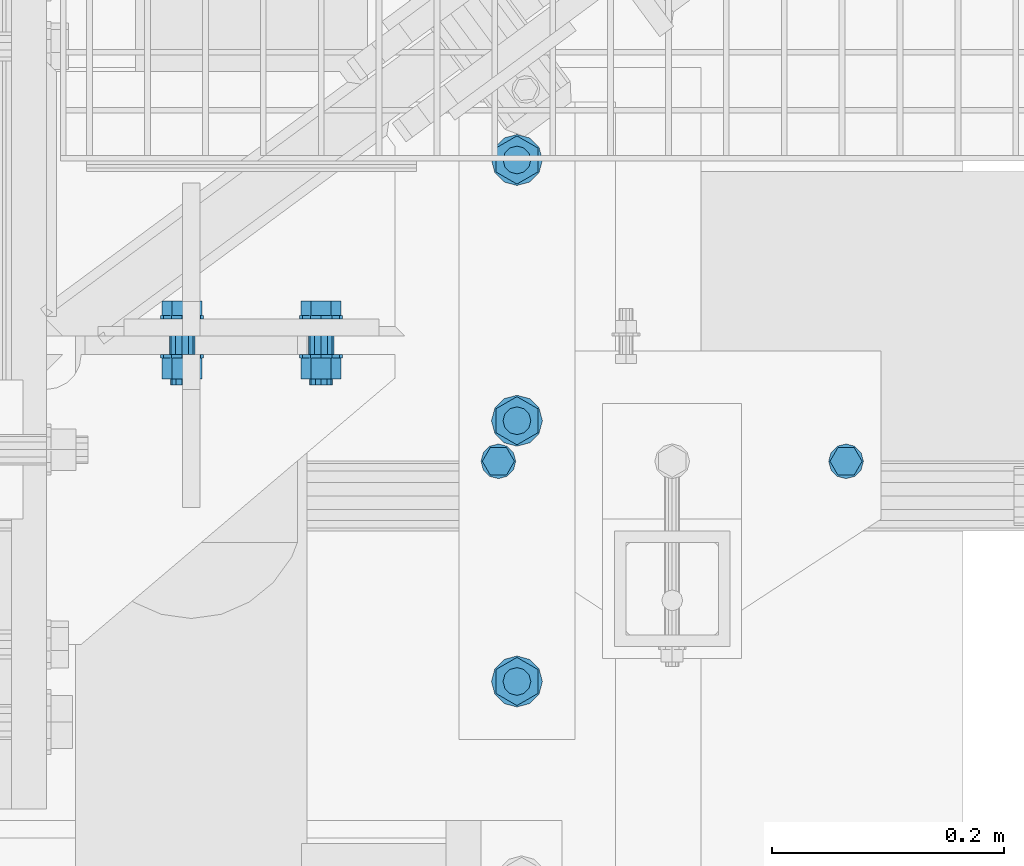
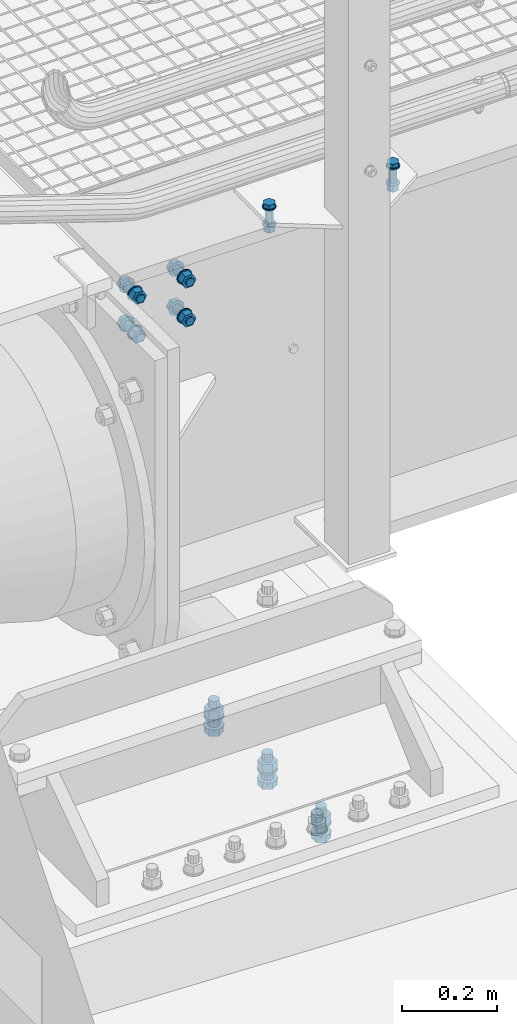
# One storey, part 6 of 1530: 3 mechanical fasteners.
"""IFC2X3 building model written with IfcOpenShell, lengths in millimetres."""

from ifc_helpers import new_model, si_unit, frame, origin_with_axes, place, context, subcontext, project, spatial, faceted_brep, source, transform, mapped, material, type_object, element, save


model = new_model("IFC2X3")

# Units and contexts
model_context = context("Model", 3, precision=1e-05, world=origin_with_axes())
body_context = subcontext(model_context, "Body", "Model", "MODEL_VIEW")
ifc_project = project(units=[si_unit("LENGTHUNIT", "METRE", prefix="MILLI"), si_unit("AREAUNIT", "SQUARE_METRE"), si_unit("VOLUMEUNIT", "CUBIC_METRE"), si_unit("MASSUNIT", "GRAM", prefix="KILO"), si_unit("TIMEUNIT", "SECOND"), si_unit("PLANEANGLEUNIT", "RADIAN"), si_unit("SOLIDANGLEUNIT", "STERADIAN"), si_unit("THERMODYNAMICTEMPERATUREUNIT", "DEGREE_CELSIUS"), si_unit("LUMINOUSINTENSITYUNIT", "LUMEN")], contexts=[model_context])

# Site, building, storey
site_placement = place(None, origin_with_axes())
site = spatial("IfcSite", under=ifc_project, at=site_placement, Name="Brattvåg", CompositionType="ELEMENT")
building_placement = place(site_placement, origin_with_axes())
building = spatial("IfcBuilding", under=site, at=building_placement, Name="Undefined", CompositionType="ELEMENT")
storey_placement = place(building_placement, origin_with_axes())
storey = spatial("IfcBuildingStorey", under=building, at=storey_placement, Name="Undefined", CompositionType="ELEMENT", Elevation=0.0)

# Mechanical fasteners
ifc_material = material(Name="8")
mechanical_fastener_type = type_object("IfcMechanicalFastenerType", Name="Bolt assembly")
shared_shape_1 = source(origin_with_axes(), body_context, "Body", "Brep", [
    faceted_brep([(20.7846096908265, -39.0003051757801, 0.0), (10.3923048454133, -39.0003051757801, 18.0), (-10.3923048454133, -39.0003051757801, 18.0), (-20.7846096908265, -39.0003051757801, 2.54538057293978e-15), (-10.3923048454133, -39.0003051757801, -18.0), (10.3923048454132, -39.0003051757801, -18.0), (10.3923048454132, -24.0003051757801, -18.0), (-10.3923048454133, -24.0003051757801, -18.0), (-20.7846096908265, -24.0003051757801, 2.54538057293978e-15), (-10.3923048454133, -24.0003051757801, 18.0), (10.3923048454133, -24.0003051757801, 18.0), (20.7846096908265, -24.0003051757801, 0.0), (12.0, -24.0003051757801, 0.0), (10.3923048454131, -24.0003051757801, 6.00000000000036), (5.99999999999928, -24.0003051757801, 10.3923048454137), (-1.24360317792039e-12, -24.0003051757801, 12.0), (-6.00000000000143, -24.0003051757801, 10.3923048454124), (-10.3923048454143, -24.0003051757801, 5.99999999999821), (-12.0, -24.0003051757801, -2.48720635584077e-12), (-10.3923048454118, -24.0003051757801, -6.00000000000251), (-5.99999999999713, -24.0003051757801, -10.3923048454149), (3.71748685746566e-12, -24.0003051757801, -12.0), (6.00000000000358, -24.0003051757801, -10.3923048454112), (10.3923048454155, -24.0003051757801, -5.99999999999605), (10.3923048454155, 45.9996948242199, -5.99999999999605), (6.00000000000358, 45.9996948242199, -10.3923048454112), (3.71748685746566e-12, 45.9996948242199, -12.0), (-5.99999999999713, 45.9996948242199, -10.3923048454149), (-10.3923048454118, 45.9996948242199, -6.00000000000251), (-12.0, 45.9996948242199, -2.48720635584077e-12), (-10.3923048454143, 45.9996948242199, 5.99999999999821), (-6.00000000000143, 45.9996948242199, 10.3923048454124), (-1.24360317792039e-12, 45.9996948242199, 12.0), (5.99999999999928, 45.9996948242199, 10.3923048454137), (10.3923048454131, 45.9996948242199, 6.00000000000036), (12.0, 45.9996948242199, 0.0), (22.0, -24.0003051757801, 0.0), (19.0525588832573, -24.0003051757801, 11.0000000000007), (10.9999999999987, -24.0003051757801, 19.0525588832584), (-2.27993915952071e-12, -24.0003051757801, 22.0), (-11.0000000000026, -24.0003051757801, 19.0525588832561), (-19.0525588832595, -24.0003051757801, 10.9999999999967), (-22.0, -24.0003051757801, -4.55987831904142e-12), (-19.052558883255, -24.0003051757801, -11.0000000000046), (-10.9999999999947, -24.0003051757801, -19.0525588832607), (6.81539257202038e-12, -24.0003051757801, -22.0), (11.0000000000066, -24.0003051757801, -19.0525588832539), (19.0525588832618, -24.0003051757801, -10.9999999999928), (19.0525588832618, -20.0003051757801, -10.9999999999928), (11.0000000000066, -20.0003051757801, -19.0525588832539), (6.81539257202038e-12, -20.0003051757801, -22.0), (-10.9999999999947, -20.0003051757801, -19.0525588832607), (-19.052558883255, -20.0003051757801, -11.0000000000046), (-22.0, -20.0003051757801, -4.55987831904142e-12), (-19.0525588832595, -20.0003051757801, 10.9999999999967), (-11.0000000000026, -20.0003051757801, 19.0525588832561), (-2.27993915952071e-12, -20.0003051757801, 22.0), (10.9999999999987, -20.0003051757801, 19.0525588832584), (19.0525588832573, -20.0003051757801, 11.0000000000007), (22.0, -20.0003051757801, 0.0), (22.0, -0.000305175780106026, 0.0), (19.0525588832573, -0.000305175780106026, 11.0000000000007), (10.9999999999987, -0.000305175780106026, 19.0525588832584), (-2.27993915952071e-12, -0.000305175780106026, 22.0), (-11.0000000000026, -0.000305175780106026, 19.0525588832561), (-19.0525588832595, -0.000305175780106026, 10.9999999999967), (-22.0, -0.000305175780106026, -4.55987831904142e-12), (-19.052558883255, -0.000305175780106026, -11.0000000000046), (-10.9999999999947, -0.000305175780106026, -19.0525588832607), (6.81539257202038e-12, -0.000305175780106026, -22.0), (11.0000000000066, -0.000305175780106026, -19.0525588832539), (19.0525588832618, -0.000305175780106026, -10.9999999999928), (19.0525588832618, 3.99969482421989, -10.9999999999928), (11.0000000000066, 3.99969482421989, -19.0525588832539), (6.81539257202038e-12, 3.99969482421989, -22.0), (-10.9999999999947, 3.99969482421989, -19.0525588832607), (-19.052558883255, 3.99969482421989, -11.0000000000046), (-22.0, 3.99969482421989, -4.55987831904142e-12), (-19.0525588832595, 3.99969482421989, 10.9999999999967), (-11.0000000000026, 3.99969482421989, 19.0525588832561), (-2.27993915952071e-12, 3.99969482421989, 22.0), (10.9999999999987, 3.99969482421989, 19.0525588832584), (19.0525588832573, 3.99969482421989, 11.0000000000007), (22.0, 3.99969482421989, 0.0), (20.7846096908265, 3.99969482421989, 0.0), (10.3923048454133, 3.99969482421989, 18.0), (-10.3923048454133, 3.99969482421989, 18.0), (-20.7846096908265, 3.99969482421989, 2.54538057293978e-15), (-10.3923048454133, 3.99969482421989, -18.0), (10.3923048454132, 3.99969482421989, -18.0), (10.3923048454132, 25.4996948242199, -18.0), (-10.3923048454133, 25.4996948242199, -18.0), (-20.7846096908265, 25.4996948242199, 2.54538057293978e-15), (-10.3923048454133, 25.4996948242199, 18.0), (10.3923048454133, 25.4996948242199, 18.0), (20.7846096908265, 25.4996948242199, 0.0)], [[[0, 1, 2, 3, 4, 5]], [[6, 7, 8, 9, 10, 11]], [[0, 11, 10, 1]], [[1, 10, 9, 2]], [[2, 9, 8, 3]], [[3, 8, 7, 4]], [[4, 7, 6, 5]], [[5, 6, 11, 0]], [[12, 13, 14, 15, 16, 17, 18, 19, 20, 21, 22, 23]], [[24, 25, 26, 27, 28, 29, 30, 31, 32, 33, 34, 35]], [[12, 35, 34, 13]], [[13, 34, 33, 14]], [[14, 33, 32, 15]], [[15, 32, 31, 16]], [[16, 31, 30, 17]], [[17, 30, 29, 18]], [[18, 29, 28, 19]], [[19, 28, 27, 20]], [[20, 27, 26, 21]], [[21, 26, 25, 22]], [[22, 25, 24, 23]], [[23, 24, 35, 12]], [[36, 37, 38, 39, 40, 41, 42, 43, 44, 45, 46, 47]], [[48, 49, 50, 51, 52, 53, 54, 55, 56, 57, 58, 59]], [[36, 59, 58, 37]], [[37, 58, 57, 38]], [[38, 57, 56, 39]], [[39, 56, 55, 40]], [[40, 55, 54, 41]], [[41, 54, 53, 42]], [[42, 53, 52, 43]], [[43, 52, 51, 44]], [[44, 51, 50, 45]], [[45, 50, 49, 46]], [[46, 49, 48, 47]], [[47, 48, 59, 36]], [[60, 61, 62, 63, 64, 65, 66, 67, 68, 69, 70, 71]], [[72, 73, 74, 75, 76, 77, 78, 79, 80, 81, 82, 83]], [[60, 83, 82, 61]], [[61, 82, 81, 62]], [[62, 81, 80, 63]], [[63, 80, 79, 64]], [[64, 79, 78, 65]], [[65, 78, 77, 66]], [[66, 77, 76, 67]], [[67, 76, 75, 68]], [[68, 75, 74, 69]], [[69, 74, 73, 70]], [[70, 73, 72, 71]], [[71, 72, 83, 60]], [[84, 85, 86, 87, 88, 89]], [[90, 91, 92, 93, 94, 95]], [[84, 95, 94, 85]], [[85, 94, 93, 86]], [[86, 93, 92, 87]], [[87, 92, 91, 88]], [[88, 91, 90, 89]], [[89, 90, 95, 84]]]),
    faceted_brep([(13.0, -20.0003051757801, 0.0), (11.2583302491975, -20.0003051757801, 6.50000000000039), (6.49999999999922, -20.0003051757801, 11.2583302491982), (-1.34723677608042e-12, -20.0003051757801, 13.0), (-6.50000000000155, -20.0003051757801, 11.2583302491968), (-11.2583302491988, -20.0003051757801, 6.49999999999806), (-13.0, -20.0003051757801, -2.69447355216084e-12), (-11.2583302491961, -20.0003051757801, -6.50000000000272), (-6.4999999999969, -20.0003051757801, -11.2583302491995), (4.02727742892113e-12, -20.0003051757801, -13.0), (6.50000000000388, -20.0003051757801, -11.2583302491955), (11.2583302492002, -20.0003051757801, -6.49999999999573), (11.2583302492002, 0.0996948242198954, -6.49999999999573), (6.50000000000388, 0.0996948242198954, -11.2583302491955), (4.02727742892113e-12, 0.0996948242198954, -13.0), (-6.4999999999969, 0.0996948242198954, -11.2583302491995), (-11.2583302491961, 0.0996948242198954, -6.50000000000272), (-13.0, 0.0996948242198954, -2.69447355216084e-12), (-11.2583302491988, 0.0996948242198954, 6.49999999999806), (-6.50000000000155, 0.0996948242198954, 11.2583302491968), (-1.34723677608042e-12, 0.0996948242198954, 13.0), (6.49999999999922, 0.0996948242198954, 11.2583302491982), (11.2583302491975, 0.0996948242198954, 6.50000000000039), (13.0, 0.0996948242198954, 0.0)], [[[0, 1, 2, 3, 4, 5, 6, 7, 8, 9, 10, 11]], [[12, 13, 14, 15, 16, 17, 18, 19, 20, 21, 22, 23]], [[0, 23, 22, 1]], [[1, 22, 21, 2]], [[2, 21, 20, 3]], [[3, 20, 19, 4]], [[4, 19, 18, 5]], [[5, 18, 17, 6]], [[6, 17, 16, 7]], [[7, 16, 15, 8]], [[8, 15, 14, 9]], [[9, 14, 13, 10]], [[10, 13, 12, 11]], [[11, 12, 23, 0]]]),
])
mechanical_fastener_1_placement = place(storey_placement, frame((416.009799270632, 160.001182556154, -1458.00001144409), z_axis=(-1.0, 1.99999855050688e-09, 0.0), x_axis=(0.0, -1.0, 0.0)))
element("IfcMechanicalFastener", 1, at=mechanical_fastener_1_placement, inside=storey, type_object=mechanical_fastener_type, material=ifc_material, Name="Bolt assembly", NominalDiameter=24.0, NominalLength=70.0, context=body_context, shape_type="MappedRepresentation", body=[
    mapped(shared_shape_1, transform((0.0, 0.0, 0.0))),
    mapped(shared_shape_1, transform((225.0, 0.0, 0.0))),
    mapped(shared_shape_1, transform((450.0, 0.0, 0.0))),
])
shared_shape_2 = source(origin_with_axes(), body_context, "Body", "Brep", [
    faceted_brep([(13.856406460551, -13.0, 0.0), (6.92820323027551, -13.0, 12.0), (-6.92820323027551, -13.0, 12.0), (-13.856406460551, -13.0, 1.69692038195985e-15), (-6.92820323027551, -13.0, -12.0), (6.9282032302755, -13.0, -12.0), (6.9282032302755, -3.0, -12.0), (-6.92820323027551, -3.0, -12.0), (-13.856406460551, -3.0, 1.69692038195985e-15), (-6.92820323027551, -3.0, 12.0), (6.92820323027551, -3.0, 12.0), (13.856406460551, -3.0, 0.0), (8.0, -3.0, 0.0), (6.92820323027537, -3.0, 4.00000000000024), (3.99999999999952, -3.0, 6.92820323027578), (-8.29068785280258e-13, -3.0, 8.0), (-4.00000000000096, -3.0, 6.92820323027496), (-6.9282032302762, -3.0, 3.99999999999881), (-8.0, -3.0, -1.65813757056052e-12), (-6.92820323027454, -3.0, -4.00000000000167), (-3.99999999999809, -3.0, -6.92820323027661), (2.47832457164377e-12, -3.0, -8.0), (4.00000000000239, -3.0, -6.92820323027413), (6.92820323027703, -3.0, -3.99999999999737), (6.92820323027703, 62.0000000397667, -3.99999999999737), (4.00000000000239, 62.0000000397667, -6.92820323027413), (2.47832457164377e-12, 62.0000000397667, -8.0), (-3.99999999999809, 62.0000000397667, -6.92820323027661), (-6.92820323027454, 62.0000000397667, -4.00000000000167), (-8.0, 62.0000000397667, -1.65813757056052e-12), (-6.9282032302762, 62.0000000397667, 3.99999999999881), (-4.00000000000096, 62.0000000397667, 6.92820323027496), (-8.29068785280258e-13, 62.0000000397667, 8.0), (3.99999999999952, 62.0000000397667, 6.92820323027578), (6.92820323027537, 62.0000000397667, 4.00000000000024), (8.0, 62.0000000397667, 0.0), (15.0, -3.0, 0.0), (12.9903810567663, -3.0, 7.50000000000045), (7.4999999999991, -3.0, 12.9903810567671), (-1.55450397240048e-12, -3.0, 15.0), (-7.50000000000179, -3.0, 12.9903810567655), (-12.9903810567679, -3.0, 7.49999999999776), (-15.0, -3.0, -3.10900794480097e-12), (-12.9903810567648, -3.0, -7.50000000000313), (-7.49999999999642, -3.0, -12.9903810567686), (4.64685857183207e-12, -3.0, -15.0), (7.50000000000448, -3.0, -12.990381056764), (12.9903810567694, -3.0, -7.49999999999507), (12.9903810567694, 0.0, -7.49999999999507), (7.50000000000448, 0.0, -12.990381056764), (0.0, 0.0, -15.0), (-7.49999999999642, 0.0, -12.9903810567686), (-12.9903810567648, 0.0, -7.50000000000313), (-15.0, 0.0, -3.10900794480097e-12), (-12.9903810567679, 0.0, 7.49999999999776), (-7.50000000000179, 0.0, 12.9903810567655), (0.0, 0.0, 15.0), (7.4999999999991, 0.0, 12.9903810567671), (12.9903810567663, 0.0, 7.50000000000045), (15.0, 0.0, 0.0), (15.0, 39.9997390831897, 0.0), (12.9903810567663, 39.9997390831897, 7.50000000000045), (7.4999999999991, 39.9997390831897, 12.9903810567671), (-1.55450397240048e-12, 39.9997390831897, 15.0), (-7.50000000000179, 39.9997390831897, 12.9903810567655), (-12.9903810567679, 39.9997390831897, 7.49999999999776), (-15.0, 39.9997390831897, -3.10900794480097e-12), (-12.9903810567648, 39.9997390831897, -7.50000000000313), (-7.49999999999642, 39.9997390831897, -12.9903810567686), (4.64685857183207e-12, 39.9997390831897, -15.0), (7.50000000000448, 39.9997390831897, -12.990381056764), (12.9903810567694, 39.9997390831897, -7.49999999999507), (12.9903810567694, 42.9997390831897, -7.49999999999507), (7.50000000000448, 42.9997390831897, -12.990381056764), (4.64685857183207e-12, 42.9997390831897, -15.0), (-7.49999999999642, 42.9997390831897, -12.9903810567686), (-12.9903810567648, 42.9997390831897, -7.50000000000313), (-15.0, 42.9997390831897, -3.10900794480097e-12), (-12.9903810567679, 42.9997390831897, 7.49999999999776), (-7.50000000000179, 42.9997390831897, 12.9903810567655), (-1.55450397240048e-12, 42.9997390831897, 15.0), (7.4999999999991, 42.9997390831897, 12.9903810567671), (12.9903810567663, 42.9997390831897, 7.50000000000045), (15.0, 42.9997390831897, 0.0), (13.856406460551, 42.9997390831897, 0.0), (6.92820323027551, 42.9997390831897, 12.0), (-6.92820323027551, 42.9997390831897, 12.0), (-13.856406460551, 42.9997390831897, 1.69692038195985e-15), (-6.92820323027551, 42.9997390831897, -12.0), (6.9282032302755, 42.9997390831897, -12.0), (6.9282032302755, 57.7997392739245, -12.0), (-6.92820323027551, 57.7997392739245, -12.0), (-13.856406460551, 57.7997392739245, 1.69692038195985e-15), (-6.92820323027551, 57.7997392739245, 12.0), (6.92820323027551, 57.7997392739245, 12.0), (13.856406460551, 57.7997392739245, 0.0)], [[[0, 1, 2, 3, 4, 5]], [[6, 7, 8, 9, 10, 11]], [[0, 11, 10, 1]], [[1, 10, 9, 2]], [[2, 9, 8, 3]], [[3, 8, 7, 4]], [[4, 7, 6, 5]], [[5, 6, 11, 0]], [[12, 13, 14, 15, 16, 17, 18, 19, 20, 21, 22, 23]], [[24, 25, 26, 27, 28, 29, 30, 31, 32, 33, 34, 35]], [[12, 35, 34, 13]], [[13, 34, 33, 14]], [[14, 33, 32, 15]], [[15, 32, 31, 16]], [[16, 31, 30, 17]], [[17, 30, 29, 18]], [[18, 29, 28, 19]], [[19, 28, 27, 20]], [[20, 27, 26, 21]], [[21, 26, 25, 22]], [[22, 25, 24, 23]], [[23, 24, 35, 12]], [[36, 37, 38, 39, 40, 41, 42, 43, 44, 45, 46, 47]], [[48, 49, 50, 51, 52, 53, 54, 55, 56, 57, 58, 59]], [[36, 59, 58, 37]], [[37, 58, 57, 38]], [[38, 57, 56, 39]], [[39, 56, 55, 40]], [[40, 55, 54, 41]], [[41, 54, 53, 42]], [[42, 53, 52, 43]], [[43, 52, 51, 44]], [[44, 51, 50, 45]], [[45, 50, 49, 46]], [[46, 49, 48, 47]], [[47, 48, 59, 36]], [[60, 61, 62, 63, 64, 65, 66, 67, 68, 69, 70, 71]], [[72, 73, 74, 75, 76, 77, 78, 79, 80, 81, 82, 83]], [[60, 83, 82, 61]], [[61, 82, 81, 62]], [[62, 81, 80, 63]], [[63, 80, 79, 64]], [[64, 79, 78, 65]], [[65, 78, 77, 66]], [[66, 77, 76, 67]], [[67, 76, 75, 68]], [[68, 75, 74, 69]], [[69, 74, 73, 70]], [[70, 73, 72, 71]], [[71, 72, 83, 60]], [[84, 85, 86, 87, 88, 89]], [[90, 91, 92, 93, 94, 95]], [[84, 95, 94, 85]], [[85, 94, 93, 86]], [[86, 93, 92, 87]], [[87, 92, 91, 88]], [[88, 91, 90, 89]], [[89, 90, 95, 84]]]),
    faceted_brep([(9.0, 0.1, 0.0), (7.79422863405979, 0.1, 4.50000000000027), (4.49999999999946, 0.1, 7.79422863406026), (-9.3270238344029e-13, 0.1, 9.0), (-4.50000000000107, 0.1, 7.79422863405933), (-7.79422863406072, 0.1, 4.49999999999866), (-9.0, 0.1, -1.86540476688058e-12), (-7.79422863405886, 0.1, -4.50000000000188), (-4.49999999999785, 0.1, -7.79422863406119), (2.78811514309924e-12, 0.1, -9.0), (4.50000000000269, 0.1, -7.7942286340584), (7.79422863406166, 0.1, -4.49999999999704), (7.79422863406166, 10.1, -4.49999999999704), (4.50000000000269, 10.1, -7.7942286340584), (2.78811514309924e-12, 10.1, -9.0), (-4.49999999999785, 10.1, -7.79422863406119), (-7.79422863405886, 10.1, -4.50000000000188), (-9.0, 10.1, -1.86540476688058e-12), (-7.79422863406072, 10.1, 4.49999999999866), (-4.50000000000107, 10.1, 7.79422863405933), (-9.3270238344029e-13, 10.1, 9.0), (4.49999999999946, 10.1, 7.79422863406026), (7.79422863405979, 10.1, 4.50000000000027), (9.0, 10.1, 0.0), (9.0, 9.8997390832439, 0.0), (7.79422863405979, 9.8997390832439, 4.50000000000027), (4.49999999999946, 9.8997390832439, 7.79422863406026), (-9.3270238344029e-13, 9.8997390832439, 9.0), (-4.50000000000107, 9.8997390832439, 7.79422863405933), (-7.79422863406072, 9.8997390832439, 4.49999999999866), (-9.0, 9.8997390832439, -1.86540476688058e-12), (-7.79422863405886, 9.8997390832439, -4.50000000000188), (-4.49999999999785, 9.8997390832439, -7.79422863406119), (2.78811514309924e-12, 9.8997390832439, -9.0), (4.50000000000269, 9.8997390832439, -7.7942286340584), (7.79422863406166, 9.8997390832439, -4.49999999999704), (7.79422863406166, 39.9997390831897, -4.49999999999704), (4.50000000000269, 39.9997390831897, -7.7942286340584), (2.78811514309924e-12, 39.9997390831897, -9.0), (-4.49999999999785, 39.9997390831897, -7.79422863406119), (-7.79422863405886, 39.9997390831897, -4.50000000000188), (-9.0, 39.9997390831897, -1.86540476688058e-12), (-7.79422863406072, 39.9997390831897, 4.49999999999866), (-4.50000000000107, 39.9997390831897, 7.79422863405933), (-9.3270238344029e-13, 39.9997390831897, 9.0), (4.49999999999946, 39.9997390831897, 7.79422863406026), (7.79422863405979, 39.9997390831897, 4.50000000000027), (9.0, 39.9997390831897, 0.0)], [[[0, 1, 2, 3, 4, 5, 6, 7, 8, 9, 10, 11]], [[12, 13, 14, 15, 16, 17, 18, 19, 20, 21, 22, 23]], [[0, 23, 22, 1]], [[1, 22, 21, 2]], [[2, 21, 20, 3]], [[3, 20, 19, 4]], [[4, 19, 18, 5]], [[5, 18, 17, 6]], [[6, 17, 16, 7]], [[7, 16, 15, 8]], [[8, 15, 14, 9]], [[9, 14, 13, 10]], [[10, 13, 12, 11]], [[11, 12, 23, 0]], [[24, 25, 26, 27, 28, 29, 30, 31, 32, 33, 34, 35]], [[36, 37, 38, 39, 40, 41, 42, 43, 44, 45, 46, 47]], [[24, 47, 46, 25]], [[25, 46, 45, 26]], [[26, 45, 44, 27]], [[27, 44, 43, 28]], [[28, 43, 42, 29]], [[29, 42, 41, 30]], [[30, 41, 40, 31]], [[31, 40, 39, 32]], [[32, 39, 38, 33]], [[33, 38, 37, 34]], [[34, 37, 36, 35]], [[35, 36, 47, 24]]]),
])
mechanical_fastener_2_placement = place(storey_placement, frame((400.000808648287, -99.9996071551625, 9.99973908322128), z_axis=(0.0, 1.0, 0.0), x_axis=(1.0, 0.0, 0.0)))
element("IfcMechanicalFastener", 2, at=mechanical_fastener_2_placement, inside=storey, type_object=mechanical_fastener_type, material=ifc_material, Name="Bolt assembly", NominalDiameter=16.0, NominalLength=65.0, context=body_context, shape_type="MappedRepresentation", body=[
    mapped(shared_shape_2, transform((0.0, 0.0, 0.0))),
    mapped(shared_shape_2, transform((300.0, 0.0, 0.0))),
])
shared_shape_3 = source(origin_with_axes(), body_context, "Body", "Brep", [
    faceted_brep([(17.3205080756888, -15.5000000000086, 0.0), (8.66025403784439, -15.5000000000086, 15.0), (-8.66025403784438, -15.5000000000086, 15.0), (-17.3205080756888, -15.5000000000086, 2.12115047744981e-15), (-8.66025403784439, -15.5000000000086, -15.0), (8.66025403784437, -15.5000000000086, -15.0), (8.66025403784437, -3.00000000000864, -15.0), (-8.66025403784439, -3.00000000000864, -15.0), (-17.3205080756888, -3.00000000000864, 2.12115047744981e-15), (-8.66025403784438, -3.00000000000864, 15.0), (8.66025403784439, -3.00000000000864, 15.0), (17.3205080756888, -3.00000000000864, 0.0), (10.0, -3.00000000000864, 0.0), (8.66025403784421, -3.00000000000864, 5.0000000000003), (4.9999999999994, -3.00000000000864, 8.66025403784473), (-1.03633598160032e-12, -3.00000000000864, 10.0), (-5.00000000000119, -3.00000000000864, 8.6602540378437), (-8.66025403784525, -3.00000000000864, 4.99999999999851), (-10.0, -3.00000000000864, -2.07267196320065e-12), (-8.66025403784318, -3.00000000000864, -5.00000000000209), (-4.99999999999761, -3.00000000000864, -8.66025403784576), (3.09790571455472e-12, -3.00000000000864, -10.0), (5.00000000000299, -3.00000000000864, -8.66025403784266), (8.66025403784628, -3.00000000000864, -4.99999999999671), (8.66025403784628, 57.0, -4.99999999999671), (5.00000000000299, 57.0, -8.66025403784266), (3.09790571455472e-12, 57.0, -10.0), (-4.99999999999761, 57.0, -8.66025403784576), (-8.66025403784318, 57.0, -5.00000000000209), (-10.0, 57.0, -2.07267196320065e-12), (-8.66025403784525, 57.0, 4.99999999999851), (-5.00000000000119, 57.0, 8.6602540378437), (-1.03633598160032e-12, 57.0, 10.0), (4.9999999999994, 57.0, 8.66025403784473), (8.66025403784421, 57.0, 5.0000000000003), (10.0, 57.0, 0.0), (18.5, -3.00000000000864, 0.0), (16.0214699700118, -3.00000000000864, 9.25000000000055), (9.2499999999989, -3.00000000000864, 16.0214699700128), (-1.9172215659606e-12, -3.00000000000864, 18.5), (-9.25000000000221, -3.00000000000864, 16.0214699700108), (-16.0214699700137, -3.00000000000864, 9.24999999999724), (-18.5, -3.00000000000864, -3.83444313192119e-12), (-16.0214699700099, -3.00000000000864, -9.25000000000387), (-9.24999999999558, -3.00000000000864, -16.0214699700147), (5.73112557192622e-12, -3.00000000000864, -18.5), (9.25000000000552, -3.00000000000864, -16.0214699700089), (16.0214699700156, -3.00000000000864, -9.24999999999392), (16.0214699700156, -8.64019966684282e-12, -9.24999999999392), (9.25000000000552, -8.64019966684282e-12, -16.0214699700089), (5.73112557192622e-12, -8.64019966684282e-12, -18.5), (-9.24999999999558, -8.64019966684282e-12, -16.0214699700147), (-16.0214699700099, -8.64019966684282e-12, -9.25000000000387), (-18.5, -8.64019966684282e-12, -3.83444313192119e-12), (-16.0214699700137, -8.64019966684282e-12, 9.24999999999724), (-9.25000000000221, -8.64019966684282e-12, 16.0214699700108), (-1.9172215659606e-12, -8.64019966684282e-12, 18.5), (9.2499999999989, -8.64019966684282e-12, 16.0214699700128), (16.0214699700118, -8.64019966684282e-12, 9.25000000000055), (18.5, -8.64019966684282e-12, 0.0), (18.5, 31.0015563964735, 0.0), (16.0214699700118, 31.0015563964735, 9.25000000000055), (9.2499999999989, 31.0015563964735, 16.0214699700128), (-1.9172215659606e-12, 31.0015563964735, 18.5), (-9.25000000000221, 31.0015563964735, 16.0214699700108), (-16.0214699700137, 31.0015563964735, 9.24999999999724), (-18.5, 31.0015563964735, -3.83444313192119e-12), (-16.0214699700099, 31.0015563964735, -9.25000000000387), (-9.24999999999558, 31.0015563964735, -16.0214699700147), (5.73112557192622e-12, 31.0015563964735, -18.5), (9.25000000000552, 31.0015563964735, -16.0214699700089), (16.0214699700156, 31.0015563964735, -9.24999999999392), (16.0214699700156, 34.0015563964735, -9.24999999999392), (9.25000000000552, 34.0015563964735, -16.0214699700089), (5.73112557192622e-12, 34.0015563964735, -18.5), (-9.24999999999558, 34.0015563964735, -16.0214699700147), (-16.0214699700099, 34.0015563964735, -9.25000000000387), (-18.5, 34.0015563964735, -3.83444313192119e-12), (-16.0214699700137, 34.0015563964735, 9.24999999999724), (-9.25000000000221, 34.0015563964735, 16.0214699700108), (-1.9172215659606e-12, 34.0015563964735, 18.5), (9.2499999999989, 34.0015563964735, 16.0214699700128), (16.0214699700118, 34.0015563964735, 9.25000000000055), (18.5, 34.0015563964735, 0.0), (17.3205080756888, 34.0015563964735, 0.0), (8.66025403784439, 34.0015563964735, 15.0), (-8.66025403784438, 34.0015563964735, 15.0), (-17.3205080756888, 34.0015563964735, 2.12115047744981e-15), (-8.66025403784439, 34.0015563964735, -15.0), (8.66025403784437, 34.0015563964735, -15.0), (8.66025403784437, 52.0015563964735, -15.0), (-8.66025403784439, 52.0015563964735, -15.0), (-17.3205080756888, 52.0015563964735, 2.12115047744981e-15), (-8.66025403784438, 52.0015563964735, 15.0), (8.66025403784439, 52.0015563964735, 15.0), (17.3205080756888, 52.0015563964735, 0.0)], [[[0, 1, 2, 3, 4, 5]], [[6, 7, 8, 9, 10, 11]], [[0, 11, 10, 1]], [[1, 10, 9, 2]], [[2, 9, 8, 3]], [[3, 8, 7, 4]], [[4, 7, 6, 5]], [[5, 6, 11, 0]], [[12, 13, 14, 15, 16, 17, 18, 19, 20, 21, 22, 23]], [[24, 25, 26, 27, 28, 29, 30, 31, 32, 33, 34, 35]], [[12, 35, 34, 13]], [[13, 34, 33, 14]], [[14, 33, 32, 15]], [[15, 32, 31, 16]], [[16, 31, 30, 17]], [[17, 30, 29, 18]], [[18, 29, 28, 19]], [[19, 28, 27, 20]], [[20, 27, 26, 21]], [[21, 26, 25, 22]], [[22, 25, 24, 23]], [[23, 24, 35, 12]], [[36, 37, 38, 39, 40, 41, 42, 43, 44, 45, 46, 47]], [[48, 49, 50, 51, 52, 53, 54, 55, 56, 57, 58, 59]], [[36, 59, 58, 37]], [[37, 58, 57, 38]], [[38, 57, 56, 39]], [[39, 56, 55, 40]], [[40, 55, 54, 41]], [[41, 54, 53, 42]], [[42, 53, 52, 43]], [[43, 52, 51, 44]], [[44, 51, 50, 45]], [[45, 50, 49, 46]], [[46, 49, 48, 47]], [[47, 48, 59, 36]], [[60, 61, 62, 63, 64, 65, 66, 67, 68, 69, 70, 71]], [[72, 73, 74, 75, 76, 77, 78, 79, 80, 81, 82, 83]], [[60, 83, 82, 61]], [[61, 82, 81, 62]], [[62, 81, 80, 63]], [[63, 80, 79, 64]], [[64, 79, 78, 65]], [[65, 78, 77, 66]], [[66, 77, 76, 67]], [[67, 76, 75, 68]], [[68, 75, 74, 69]], [[69, 74, 73, 70]], [[70, 73, 72, 71]], [[71, 72, 83, 60]], [[84, 85, 86, 87, 88, 89]], [[90, 91, 92, 93, 94, 95]], [[84, 95, 94, 85]], [[85, 94, 93, 86]], [[86, 93, 92, 87]], [[87, 92, 91, 88]], [[88, 91, 90, 89]], [[89, 90, 95, 84]]]),
    faceted_brep([(11.0, 0.1, 0.0), (9.52627944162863, 0.1, 5.50000000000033), (5.49999999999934, 0.1, 9.5262794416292), (-1.13996957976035e-12, 0.1, 11.0), (-5.50000000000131, 0.1, 9.52627944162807), (-9.52627944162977, 0.1, 5.49999999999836), (-11.0, 0.1, -2.27993915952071e-12), (-9.5262794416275, 0.1, -5.5000000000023), (-5.49999999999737, 0.1, -9.52627944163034), (3.40769628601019e-12, 0.1, -11.0), (5.50000000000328, 0.1, -9.52627944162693), (9.52627944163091, 0.1, -5.49999999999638), (9.52627944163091, 15.1, -5.49999999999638), (5.50000000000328, 15.1, -9.52627944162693), (3.40769628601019e-12, 15.1, -11.0), (-5.49999999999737, 15.1, -9.52627944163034), (-9.5262794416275, 15.1, -5.5000000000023), (-11.0, 15.1, -2.27993915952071e-12), (-9.52627944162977, 15.1, 5.49999999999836), (-5.50000000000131, 15.1, 9.52627944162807), (-1.13996957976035e-12, 15.1, 11.0), (5.49999999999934, 15.1, 9.5262794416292), (9.52627944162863, 15.1, 5.50000000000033), (11.0, 15.1, 0.0), (11.0, 14.9015563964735, 0.0), (9.52627944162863, 14.9015563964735, 5.50000000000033), (5.49999999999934, 14.9015563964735, 9.5262794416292), (-1.13996957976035e-12, 14.9015563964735, 11.0), (-5.50000000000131, 14.9015563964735, 9.52627944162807), (-9.52627944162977, 14.9015563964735, 5.49999999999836), (-11.0, 14.9015563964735, -2.27993915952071e-12), (-9.5262794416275, 14.9015563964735, -5.5000000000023), (-5.49999999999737, 14.9015563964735, -9.52627944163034), (3.40769628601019e-12, 14.9015563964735, -11.0), (5.50000000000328, 14.9015563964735, -9.52627944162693), (9.52627944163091, 14.9015563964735, -5.49999999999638), (9.52627944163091, 31.0015563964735, -5.49999999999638), (5.50000000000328, 31.0015563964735, -9.52627944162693), (3.40769628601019e-12, 31.0015563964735, -11.0), (-5.49999999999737, 31.0015563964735, -9.52627944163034), (-9.5262794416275, 31.0015563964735, -5.5000000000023), (-11.0, 31.0015563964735, -2.27993915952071e-12), (-9.52627944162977, 31.0015563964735, 5.49999999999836), (-5.50000000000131, 31.0015563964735, 9.52627944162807), (-1.13996957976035e-12, 31.0015563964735, 11.0), (5.49999999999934, 31.0015563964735, 9.5262794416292), (9.52627944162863, 31.0015563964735, 5.50000000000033), (11.0, 31.0015563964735, 0.0)], [[[0, 1, 2, 3, 4, 5, 6, 7, 8, 9, 10, 11]], [[12, 13, 14, 15, 16, 17, 18, 19, 20, 21, 22, 23]], [[0, 23, 22, 1]], [[1, 22, 21, 2]], [[2, 21, 20, 3]], [[3, 20, 19, 4]], [[4, 19, 18, 5]], [[5, 18, 17, 6]], [[6, 17, 16, 7]], [[7, 16, 15, 8]], [[8, 15, 14, 9]], [[9, 14, 13, 10]], [[10, 13, 12, 11]], [[11, 12, 23, 0]], [[24, 25, 26, 27, 28, 29, 30, 31, 32, 33, 34, 35]], [[36, 37, 38, 39, 40, 41, 42, 43, 44, 45, 46, 47]], [[24, 47, 46, 25]], [[25, 46, 45, 26]], [[26, 45, 44, 27]], [[27, 44, 43, 28]], [[28, 43, 42, 29]], [[29, 42, 41, 30]], [[30, 41, 40, 31]], [[31, 40, 39, 32]], [[32, 39, 38, 33]], [[33, 38, 37, 34]], [[34, 37, 36, 35]], [[35, 36, 47, 24]]]),
])
mechanical_fastener_3_placement = place(storey_placement, frame((247.001968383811, 23.0015563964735, -219.998836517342), z_axis=(0.0, 0.0, 1.0), x_axis=(-1.0, 1.99999855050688e-09, 0.0)))
element("IfcMechanicalFastener", 3, at=mechanical_fastener_3_placement, inside=storey, type_object=mechanical_fastener_type, material=ifc_material, Name="Bolt assembly", NominalDiameter=20.0, NominalLength=60.0, context=body_context, shape_type="MappedRepresentation", body=[
    mapped(shared_shape_3, transform((0.0, 0.0, -50.0))),
    mapped(shared_shape_3, transform((120.0, 0.0, -50.0))),
    mapped(shared_shape_3, transform((0.0, 0.0, 50.0))),
    mapped(shared_shape_3, transform((120.0, 0.0, 50.0))),
])

save(model, "model.ifc")
